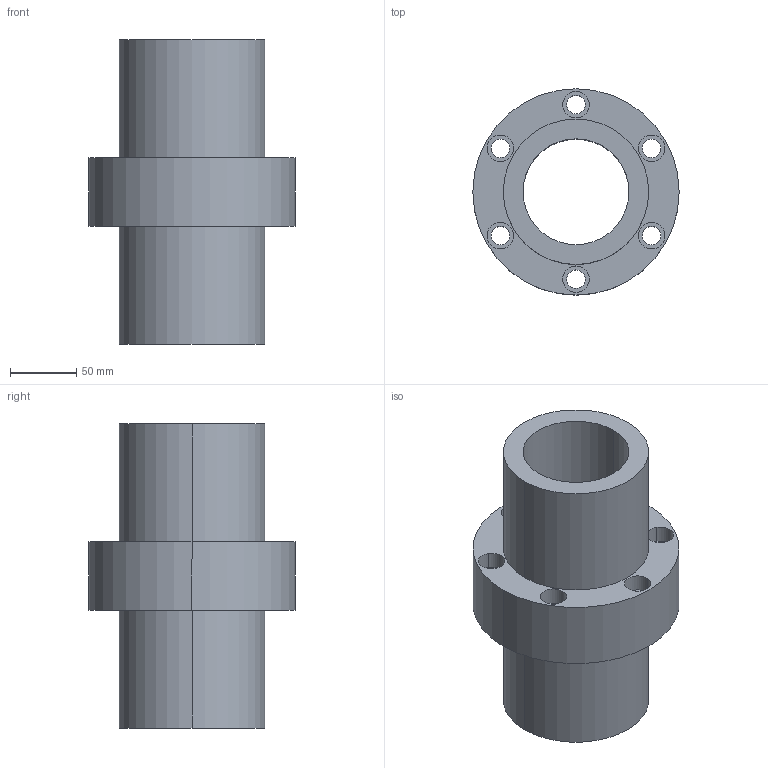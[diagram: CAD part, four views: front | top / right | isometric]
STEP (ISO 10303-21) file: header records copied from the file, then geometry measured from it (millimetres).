
FILE_DESCRIPTION((''),'2;1');
FILE_NAME('80-12T4','2008-04-07T',('yanyu'),(''),'PRO/ENGINEER BY PARAMETRIC TECHNOLOGY CORPORATION, 2005070','PRO/ENGINEER BY PARAMETRIC TECHNOLOGY CORPORATION, 2005070','');
FILE_SCHEMA(('CONFIG_CONTROL_DESIGN'));
Length unit declared in the file: millimetre
Products named in the file (1): 80-12T4
Bounding box: 156 x 156 x 230 mm (x, y, z)
Volume: 1468857.9 mm3; surface area: 186321.6 mm2
Topology: 1 solids, 1 shells, 42 faces, 104 edges, 72 vertices
Faces by surface type: cylinder 32, plane 10
Entity records: 1370 total; most frequent: DIRECTION 260, CARTESIAN_POINT 218, ORIENTED_EDGE 208, AXIS2_PLACEMENT_3D 114, EDGE_CURVE 104, VERTEX_POINT 72, CIRCLE 72, EDGE_LOOP 64
